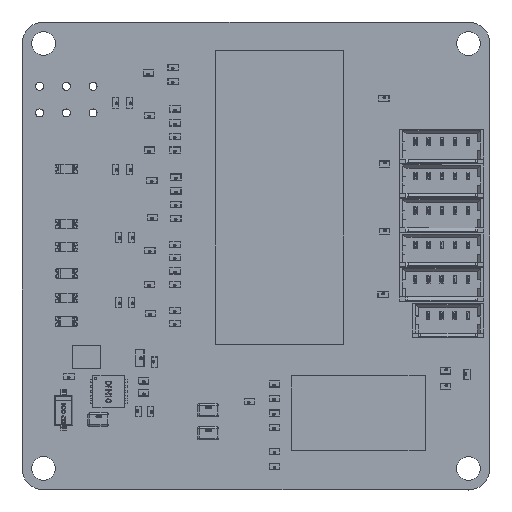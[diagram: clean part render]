
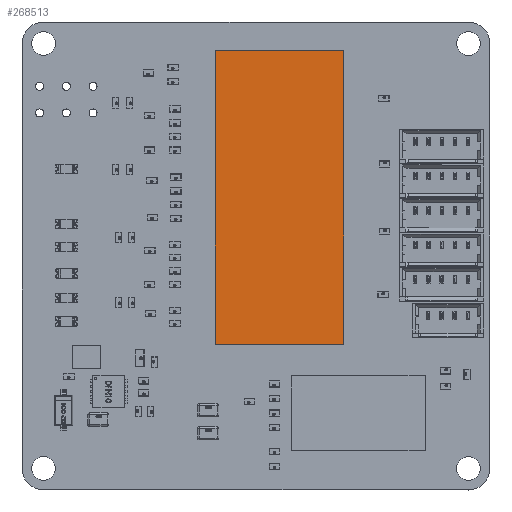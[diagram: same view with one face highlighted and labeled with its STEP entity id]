
A CAD part, top view. The second image highlights one B-rep face of the part: STEP entity #268513.
In plain terms, the highlighted planar face has unit normal (0, 0, 1).
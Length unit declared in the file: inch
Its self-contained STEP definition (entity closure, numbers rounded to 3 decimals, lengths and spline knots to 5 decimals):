
#27640 = VECTOR ( 'NONE', #229757, 39.37008 ) ;
#54117 = EDGE_CURVE ( 'NONE', #185011, #493986, #172064, .T. ) ;
#70872 = CARTESIAN_POINT ( 'NONE',  ( 0.32815, 0.76892, 0.29032 ) ) ;
#80724 = ORIENTED_EDGE ( 'NONE', *, *, #359244, .F. ) ;
#86364 = CARTESIAN_POINT ( 'NONE',  ( -0.15204, -0.33096, 0.29032 ) ) ;
#117033 = DIRECTION ( 'NONE',  ( 0., 0., 1. ) ) ;
#138506 = EDGE_CURVE ( 'NONE', #493986, #319281, #186087, .T. ) ;
#172064 = LINE ( 'NONE', #70872, #232616 ) ;
#174551 = AXIS2_PLACEMENT_3D ( 'NONE', #344011, #117033, #243278 ) ;
#185011 = VERTEX_POINT ( 'NONE', #440408 ) ;
#186087 = LINE ( 'NONE', #354277, #365901 ) ;
#211092 = DIRECTION ( 'NONE',  ( -1., 0., 0. ) ) ;
#225751 = EDGE_CURVE ( 'NONE', #442600, #185011, #431416, .T. ) ;
#229757 = DIRECTION ( 'NONE',  ( 1., 0., 0. ) ) ;
#232616 = VECTOR ( 'NONE', #281025, 39.37008 ) ;
#243278 = DIRECTION ( 'NONE',  ( 1., 0., 0. ) ) ;
#246193 = LINE ( 'NONE', #86364, #431606 ) ;
#247813 = CARTESIAN_POINT ( 'NONE',  ( 0.32788, -0.33108, 0.29032 ) ) ;
#255882 = CARTESIAN_POINT ( 'NONE',  ( -0.15204, -0.33096, 0.29032 ) ) ;
#268513 = ADVANCED_FACE ( 'NONE', ( #291991 ), #503615, .T. ) ;
#275828 = CARTESIAN_POINT ( 'NONE',  ( -0.15177, 0.76904, 0.29032 ) ) ;
#277064 = EDGE_LOOP ( 'NONE', ( #515339, #80724, #345615, #442196 ) ) ;
#281025 = DIRECTION ( 'NONE',  ( 0., -1., 0. ) ) ;
#291991 = FACE_OUTER_BOUND ( 'NONE', #277064, .T. ) ;
#319281 = VERTEX_POINT ( 'NONE', #255882 ) ;
#344011 = CARTESIAN_POINT ( 'NONE',  ( -0.15204, -0.33096, 0.29032 ) ) ;
#345615 = ORIENTED_EDGE ( 'NONE', *, *, #138506, .F. ) ;
#354277 = CARTESIAN_POINT ( 'NONE',  ( 0.32788, -0.33108, 0.29032 ) ) ;
#359244 = EDGE_CURVE ( 'NONE', #319281, #442600, #246193, .T. ) ;
#365901 = VECTOR ( 'NONE', #211092, 39.37008 ) ;
#380532 = DIRECTION ( 'NONE',  ( 0., 1., 0. ) ) ;
#431416 = LINE ( 'NONE', #456616, #27640 ) ;
#431606 = VECTOR ( 'NONE', #380532, 39.37008 ) ;
#440408 = CARTESIAN_POINT ( 'NONE',  ( 0.32815, 0.76892, 0.29032 ) ) ;
#442196 = ORIENTED_EDGE ( 'NONE', *, *, #54117, .F. ) ;
#442600 = VERTEX_POINT ( 'NONE', #275828 ) ;
#456616 = CARTESIAN_POINT ( 'NONE',  ( -0.15177, 0.76904, 0.29032 ) ) ;
#493986 = VERTEX_POINT ( 'NONE', #247813 ) ;
#503615 = PLANE ( 'NONE',  #174551 ) ;
#515339 = ORIENTED_EDGE ( 'NONE', *, *, #225751, .F. ) ;
